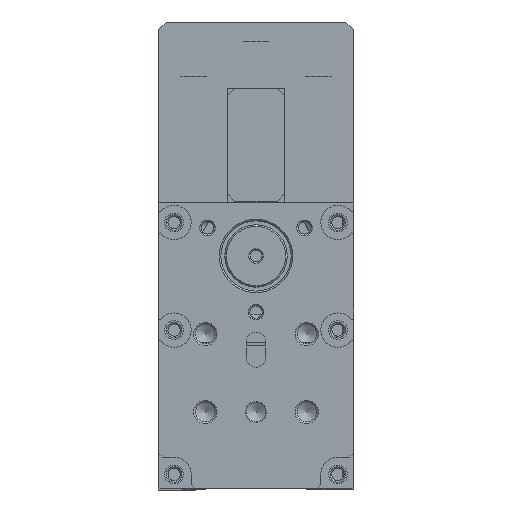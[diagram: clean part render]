
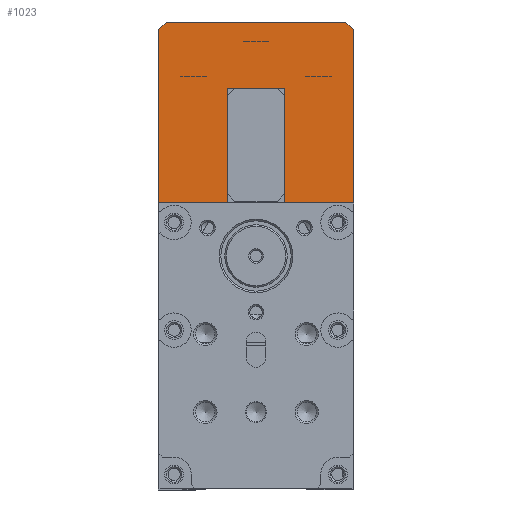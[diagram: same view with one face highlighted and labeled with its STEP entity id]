
A CAD part, front view. The second image highlights one B-rep face of the part: STEP entity #1023.
In plain terms, the highlighted planar face has unit normal (0, -1, 0) as drawn and (0, 0, 1) by its records, which use the part's own axes.
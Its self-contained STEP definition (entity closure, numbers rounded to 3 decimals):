
#393=CARTESIAN_POINT('',(0.,25.,279.5));
#394=VERTEX_POINT('',#393);
#401=CARTESIAN_POINT('',(0.,16.2,279.5));
#402=VERTEX_POINT('',#401);
#403=CARTESIAN_POINT('',(0.,25.,279.5));
#404=DIRECTION('',(0.0,-1.0,0.0));
#405=VECTOR('',#404,8.8);
#406=LINE('',#403,#405);
#407=EDGE_CURVE('',#394,#402,#406,.T.);
#416=CARTESIAN_POINT('',(0.,8.8,279.5));
#417=VERTEX_POINT('',#416);
#424=CARTESIAN_POINT('',(0.0,0.0,279.5));
#425=VERTEX_POINT('',#424);
#426=CARTESIAN_POINT('',(0.,8.8,279.5));
#427=DIRECTION('',(0.0,-1.0,0.0));
#428=VECTOR('',#427,8.8);
#429=LINE('',#426,#428);
#430=EDGE_CURVE('',#417,#425,#429,.T.);
#478=CARTESIAN_POINT('',(-14.7,8.8,279.5));
#479=VERTEX_POINT('',#478);
#486=CARTESIAN_POINT('',(0.,8.8,279.5));
#487=DIRECTION('',(-1.0,0.0,0.0));
#488=VECTOR('',#487,14.7);
#489=LINE('',#486,#488);
#490=EDGE_CURVE('',#417,#479,#489,.T.);
#502=CARTESIAN_POINT('',(-14.7,16.2,279.5));
#503=VERTEX_POINT('',#502);
#510=CARTESIAN_POINT('',(-14.7,8.8,279.5));
#511=DIRECTION('',(0.0,1.0,0.0));
#512=VECTOR('',#511,7.4);
#513=LINE('',#510,#512);
#514=EDGE_CURVE('',#479,#503,#513,.T.);
#538=CARTESIAN_POINT('',(-14.7,16.2,279.5));
#539=DIRECTION('',(1.0,0.0,0.0));
#540=VECTOR('',#539,14.7);
#541=LINE('',#538,#540);
#542=EDGE_CURVE('',#503,#402,#541,.T.);
#973=CARTESIAN_POINT('',(-11.6,12.5,279.5));
#974=DIRECTION('',(0.0,0.0,1.0));
#975=DIRECTION('',(1.0,0.0,0.0));
#976=AXIS2_PLACEMENT_3D('',#973,#974,#975);
#977=PLANE('',#976);
#978=ORIENTED_EDGE('',*,*,#490,.T.);
#979=ORIENTED_EDGE('',*,*,#514,.T.);
#980=ORIENTED_EDGE('',*,*,#542,.T.);
#981=ORIENTED_EDGE('',*,*,#407,.F.);
#982=CARTESIAN_POINT('',(-22.2,25.0,279.5));
#983=VERTEX_POINT('',#982);
#984=CARTESIAN_POINT('',(-22.2,25.0,279.5));
#985=DIRECTION('',(1.0,0.0,0.0));
#986=VECTOR('',#985,22.2);
#987=LINE('',#984,#986);
#988=EDGE_CURVE('',#983,#394,#987,.T.);
#989=ORIENTED_EDGE('',*,*,#988,.F.);
#990=CARTESIAN_POINT('',(-23.2,24.,279.5));
#991=VERTEX_POINT('',#990);
#992=CARTESIAN_POINT('',(-23.2,24.,279.5));
#993=DIRECTION('',(0.707,0.707,0.0));
#994=VECTOR('',#993,1.414);
#995=LINE('',#992,#994);
#996=EDGE_CURVE('',#991,#983,#995,.T.);
#997=ORIENTED_EDGE('',*,*,#996,.F.);
#998=CARTESIAN_POINT('',(-23.2,1.,279.5));
#999=VERTEX_POINT('',#998);
#1000=CARTESIAN_POINT('',(-23.2,1.,279.5));
#1001=DIRECTION('',(0.0,1.0,0.0));
#1002=VECTOR('',#1001,23.);
#1003=LINE('',#1000,#1002);
#1004=EDGE_CURVE('',#999,#991,#1003,.T.);
#1005=ORIENTED_EDGE('',*,*,#1004,.F.);
#1006=CARTESIAN_POINT('',(-22.2,0.,279.5));
#1007=VERTEX_POINT('',#1006);
#1008=CARTESIAN_POINT('',(-22.2,0.,279.5));
#1009=DIRECTION('',(-0.707,0.707,0.0));
#1010=VECTOR('',#1009,1.414);
#1011=LINE('',#1008,#1010);
#1012=EDGE_CURVE('',#1007,#999,#1011,.T.);
#1013=ORIENTED_EDGE('',*,*,#1012,.F.);
#1014=CARTESIAN_POINT('',(0.0,0.0,279.5));
#1015=DIRECTION('',(-1.0,0.0,0.0));
#1016=VECTOR('',#1015,22.2);
#1017=LINE('',#1014,#1016);
#1018=EDGE_CURVE('',#425,#1007,#1017,.T.);
#1019=ORIENTED_EDGE('',*,*,#1018,.F.);
#1020=ORIENTED_EDGE('',*,*,#430,.F.);
#1021=EDGE_LOOP('',(#978,#979,#980,#981,#989,#997,#1005,#1013,#1019,#1020));
#1022=FACE_OUTER_BOUND('',#1021,.T.);
#1023=ADVANCED_FACE('',(#1022),#977,.T.);
